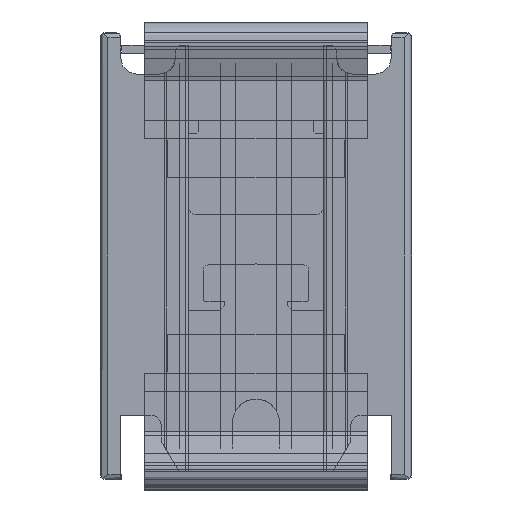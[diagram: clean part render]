
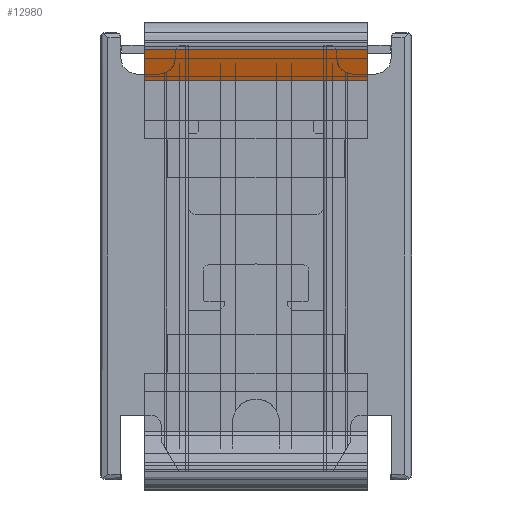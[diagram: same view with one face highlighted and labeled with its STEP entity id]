
A CAD part, front view. The second image highlights one B-rep face of the part: STEP entity #12980.
In plain terms, the highlighted planar face has unit normal (0, -0.946, -0.326).
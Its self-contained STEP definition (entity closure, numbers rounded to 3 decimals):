
#260 = DIRECTION ( 'NONE',  ( 0., -0.326, 0.946 ) ) ;
#1120 = CARTESIAN_POINT ( 'NONE',  ( 3317.5, -7733.182, 440.344 ) ) ;
#1193 = VERTEX_POINT ( 'NONE', #15719 ) ;
#1246 = CARTESIAN_POINT ( 'NONE',  ( 3360.5, -7718.904, 398.878 ) ) ;
#1591 = VECTOR ( 'NONE', #260, 1000. ) ;
#1936 = EDGE_LOOP ( 'NONE', ( #9135, #13113, #9551, #10956 ) ) ;
#2504 = VERTEX_POINT ( 'NONE', #6941 ) ;
#3130 = AXIS2_PLACEMENT_3D ( 'NONE', #1246, #9138, #6566 ) ;
#3221 = LINE ( 'NONE', #6898, #16187 ) ;
#3358 = CARTESIAN_POINT ( 'NONE',  ( 3360.5, -7733.182, 440.344 ) ) ;
#4145 = CARTESIAN_POINT ( 'NONE',  ( 3317.5, -7718.904, 398.878 ) ) ;
#4411 = CARTESIAN_POINT ( 'NONE',  ( 3360.5, -7718.904, 398.878 ) ) ;
#4908 = VERTEX_POINT ( 'NONE', #11381 ) ;
#5777 = VECTOR ( 'NONE', #11819, 1000. ) ;
#6566 = DIRECTION ( 'NONE',  ( 0., 0.326, -0.946 ) ) ;
#6898 = CARTESIAN_POINT ( 'NONE',  ( 3360.5, -7731.164, 434.481 ) ) ;
#6941 = CARTESIAN_POINT ( 'NONE',  ( 3360.5, -7731.164, 434.481 ) ) ;
#6998 = LINE ( 'NONE', #4411, #5777 ) ;
#7561 = FACE_OUTER_BOUND ( 'NONE', #1936, .T. ) ;
#9135 = ORIENTED_EDGE ( 'NONE', *, *, #14165, .F. ) ;
#9138 = DIRECTION ( 'NONE',  ( 0., -0.946, -0.326 ) ) ;
#9551 = ORIENTED_EDGE ( 'NONE', *, *, #16206, .T. ) ;
#10112 = EDGE_CURVE ( 'NONE', #1193, #12125, #14745, .T. ) ;
#10308 = LINE ( 'NONE', #4145, #1591 ) ;
#10956 = ORIENTED_EDGE ( 'NONE', *, *, #10112, .T. ) ;
#11381 = CARTESIAN_POINT ( 'NONE',  ( 3317.5, -7731.164, 434.481 ) ) ;
#11819 = DIRECTION ( 'NONE',  ( 0., -0.326, 0.946 ) ) ;
#12125 = VERTEX_POINT ( 'NONE', #1120 ) ;
#12632 = PLANE ( 'NONE',  #3130 ) ;
#12980 = ADVANCED_FACE ( 'NONE', ( #7561 ), #12632, .T. ) ;
#13113 = ORIENTED_EDGE ( 'NONE', *, *, #14370, .F. ) ;
#13506 = DIRECTION ( 'NONE',  ( -1., 0., 0. ) ) ;
#14165 = EDGE_CURVE ( 'NONE', #4908, #12125, #10308, .T. ) ;
#14370 = EDGE_CURVE ( 'NONE', #2504, #4908, #3221, .T. ) ;
#14745 = LINE ( 'NONE', #3358, #16390 ) ;
#15719 = CARTESIAN_POINT ( 'NONE',  ( 3360.5, -7733.182, 440.344 ) ) ;
#15951 = DIRECTION ( 'NONE',  ( -1., 0., 0. ) ) ;
#16187 = VECTOR ( 'NONE', #15951, 1000. ) ;
#16206 = EDGE_CURVE ( 'NONE', #2504, #1193, #6998, .T. ) ;
#16390 = VECTOR ( 'NONE', #13506, 1000. ) ;
